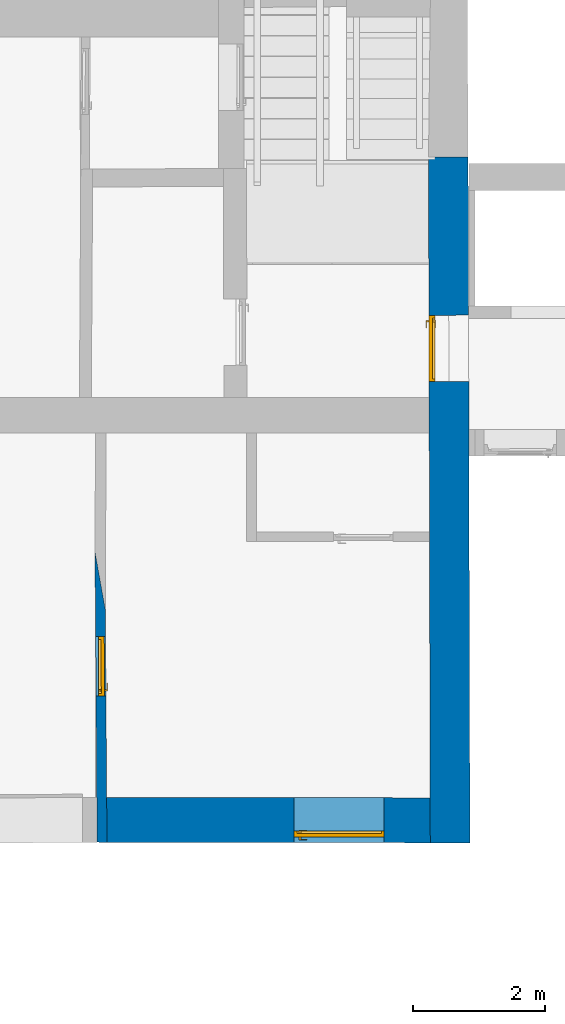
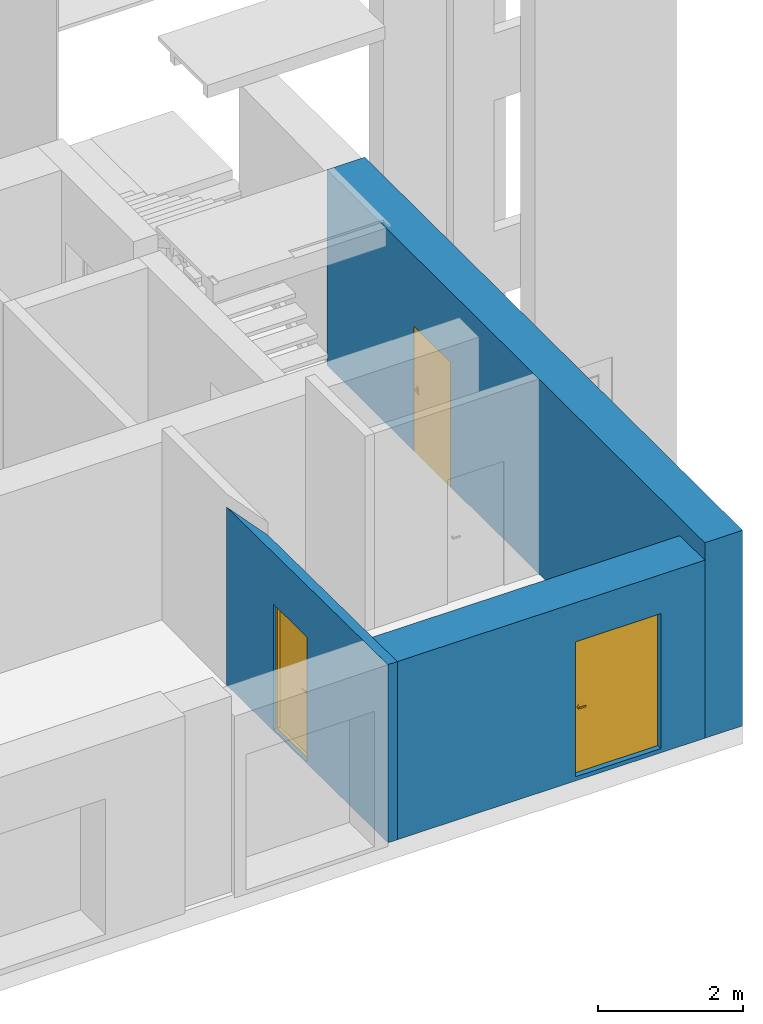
# One storey, part 10 of 17: 3 doors, 3 walls, 3 openings.
"""IFC2X3 building model written with IfcOpenShell, lengths in millimetres."""

from ifc_helpers import new_model, entity, si_unit, converted_unit, derived_unit, direction, frame, frame_2d, origin, place, context, subcontext, project, spatial, rectangle, extrude, faceted_brep, source, transform, mapped, material, material_list, layer, layer_set, type_object, type_shapes, element, fill, save


model = new_model("IFC2X3")

# Units and contexts
model_context = context("Model", 3, precision=0.01, world=origin(), true_north=direction((6.12303176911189e-17, 1.0)))
context_of_model = context(None, 3, precision=0.01, world=origin(), true_north=direction((6.12303176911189e-17, 1.0)))
body_context = subcontext(model_context, "Body", "Model", "MODEL_VIEW")
ifc_project = project(units=[si_unit("LENGTHUNIT", "METRE", prefix="MILLI"), si_unit("AREAUNIT", "SQUARE_METRE"), si_unit("VOLUMEUNIT", "CUBIC_METRE"), converted_unit("PLANEANGLEUNIT", "DEGREE", entity("IfcRatioMeasure", 0.0174532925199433), si_unit("PLANEANGLEUNIT", "RADIAN"), dimensions=[0, 0, 0, 0, 0, 0, 0]), si_unit("MASSUNIT", "GRAM", prefix="KILO"), derived_unit("MASSDENSITYUNIT", [(si_unit("MASSUNIT", "GRAM", prefix="KILO"), 1), (si_unit("LENGTHUNIT", "METRE"), -3)]), si_unit("TIMEUNIT", "SECOND"), si_unit("FREQUENCYUNIT", "HERTZ"), si_unit("THERMODYNAMICTEMPERATUREUNIT", "DEGREE_CELSIUS"), derived_unit("THERMALTRANSMITTANCEUNIT", [(si_unit("MASSUNIT", "GRAM", prefix="KILO"), 1), (si_unit("THERMODYNAMICTEMPERATUREUNIT", "KELVIN"), -1), (si_unit("TIMEUNIT", "SECOND"), -3)]), derived_unit("VOLUMETRICFLOWRATEUNIT", [(si_unit("LENGTHUNIT", "METRE"), 3), (si_unit("TIMEUNIT", "SECOND"), -1)]), si_unit("ELECTRICCURRENTUNIT", "AMPERE"), si_unit("ELECTRICVOLTAGEUNIT", "VOLT"), si_unit("POWERUNIT", "WATT"), si_unit("FORCEUNIT", "NEWTON", prefix="KILO"), si_unit("ILLUMINANCEUNIT", "LUX"), si_unit("LUMINOUSFLUXUNIT", "LUMEN"), si_unit("LUMINOUSINTENSITYUNIT", "CANDELA"), derived_unit("USERDEFINED", [(si_unit("MASSUNIT", "GRAM", prefix="KILO"), -1), (si_unit("LENGTHUNIT", "METRE"), -2), (si_unit("TIMEUNIT", "SECOND"), 3), (si_unit("LUMINOUSFLUXUNIT", "LUMEN"), 1)]), derived_unit("LINEARVELOCITYUNIT", [(si_unit("LENGTHUNIT", "METRE"), 1), (si_unit("TIMEUNIT", "SECOND"), -1)]), si_unit("PRESSUREUNIT", "PASCAL"), derived_unit("USERDEFINED", [(si_unit("LENGTHUNIT", "METRE"), -2), (si_unit("MASSUNIT", "GRAM", prefix="KILO"), 1), (si_unit("TIMEUNIT", "SECOND"), -2)])], contexts=[model_context, context_of_model])

# Site, building, storey
site_placement = place(None, frame((121442.264707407, 135347.995453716, -1800.0)))
site = spatial("IfcSite", under=ifc_project, at=site_placement, Name="Surface", CompositionType="ELEMENT")
building_placement = place(site_placement, origin())
building = spatial("IfcBuilding", under=site, at=building_placement, CompositionType="ELEMENT")
storey_placement = place(building_placement, frame((0.0, 0.0, -1490.0)))
storey = spatial("IfcBuildingStorey", under=building, at=storey_placement, Name="Kelder", CompositionType="ELEMENT", Elevation=-1489.99999999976)

# Wall, opening, door
ifc_material_1 = material(Name="__Betoonelement")
ifc_layer = layer(ifc_material_1, 150.0)
ifc_layer_set = layer_set([ifc_layer], Name="Basic Wall:15_Betoon")
wall_type_1 = type_object("IfcWallType", Name="Basic Wall:15_Betoon", PredefinedType="STANDARD", material=ifc_layer_set)
wall_1_placement = place(storey_placement, frame((-87534.6090014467, -123279.785613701, 0.0), z_axis=(0.0, 0.0, 1.0), x_axis=(0.00713811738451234, -0.999974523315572, 0.0)))
wall_1 = element("IfcWall", 1, at=wall_1_placement, inside=storey, type_object=wall_type_1, Name="Basic Wall:15_Betoon", ObjectType="Basic Wall:15_Betoon", context=body_context, shape_type="Brep", body=[
    faceted_brep([(0.0, -75.0, 0.0), (4395.36416767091, -75.0, 0.0), (4395.36416767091, -75.0, 2997.0), (4023.88147561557, -75.0, 2997.0), (3715.900593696, -75.0, 2997.0), (0.0, -75.0, 2997.0), (1287.72322610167, -75.0, 32.5000000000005), (1287.72322610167, -75.0, 2132.49999999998), (2187.72322610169, -75.0, 2132.49999999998), (2187.72322610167, -75.0, 32.5000000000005), (4396.68048083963, 75.0, 2997.0), (4396.68048083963, 75.0, 0.0), (4056.66738972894, 75.0, 0.0), (4056.66738972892, 75.0, 10.0), (3716.65429861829, 75.0, 10.0), (878.819026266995, 75.0, 10.0), (878.81902626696, 75.0, 2997.0), (3716.65429861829, 75.0, 2997.0), (4024.95222050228, 75.0, 2997.0), (1287.72322610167, 75.0, 2132.49999999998), (1287.72322610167, 75.0, 32.5000000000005), (2187.72322610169, 75.0, 32.5000000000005), (2187.72322610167, 75.0, 2132.49999999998), (439.409513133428, 0.0, 0.0), (804.025789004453, 0.0, 0.0), (4056.00923314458, 0.0, 0.0), (4056.00923314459, 0.0, 10.0), (439.409513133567, 0.0, 10.0)], [[[0, 1, 2, 3, 4, 5], [6, 7, 8, 9]], [[10, 11, 12, 13, 14, 15, 16, 17, 18], [19, 20, 21, 22]], [[1, 0, 23, 24, 25, 12, 11]], [[2, 1, 11, 10]], [[6, 20, 19, 7]], [[7, 19, 22, 8]], [[21, 9, 8, 22]], [[20, 6, 9, 21]], [[26, 27, 15, 14, 13]], [[26, 13, 12, 25]], [[27, 26, 25, 24, 23]], [[2, 10, 18, 3]], [[5, 4, 3, 18, 17, 16]], [[0, 5, 16, 15, 27, 23]]]),
])
opening_1_placement = place(wall_1_placement, frame((1287.72322610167, -75.0, 32.5000000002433)))
opening_1 = element("IfcOpeningElement", 2, at=opening_1_placement, cuts=wall_1, Name="sma_D01:900 x 2100mm Tuletokke:1", ObjectType="Opening", context=body_context, shape_type="SweptSolid", body=[
    extrude(rectangle(XDim=2099.99999999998, YDim=900.0, at=frame_2d((1049.99999999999, 450.000000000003), x_axis=(1.0, 0.0))), frame((0.0, 0.0, 0.0), z_axis=(0.0, 1.0, 0.0), x_axis=(0.0, 0.0, 1.0)), (0.0, 0.0, 1.0), 150.0),
])
ifc_material_2 = material(Name="Metal - Aluminium")
ifc_material_3 = material(Name="Metalli - teras- valge")
ifc_material_list_1 = material_list([ifc_material_2, ifc_material_3])
ifc_material_list_2 = material_list([ifc_material_2, ifc_material_3])
door_style_1 = type_object("IfcDoorStyle", Name="900 x 2100mm Tuletokke", ConstructionType="NOTDEFINED", OperationType="SINGLE_SWING_LEFT", ParameterTakesPrecedence=False, Sizeable=False, material=ifc_material_list_2)
shared_shape_1 = source(origin(), body_context, "Body", "Brep", [
    faceted_brep([(800.0, 40.0, 1112.5), (705.0, 40.0, 1112.5), (705.0, 35.0, 1112.5), (825.0, 35.0, 1112.5), (825.0, 78.0, 1112.5), (800.0, 78.0, 1112.5), (800.0, 40.0, 1087.5), (800.0, 78.0, 1087.5), (825.0, 78.0, 1087.5), (825.0, 35.0, 1087.5), (705.0, 35.0, 1087.5), (705.0, 40.0, 1087.5)], [[[0, 1, 2, 3, 4, 5]], [[6, 7, 8, 9, 10, 11]], [[5, 7, 6, 0]], [[4, 8, 7, 5]], [[3, 9, 8, 4]], [[2, 10, 9, 3]], [[1, 11, 10, 2]], [[0, 6, 11, 1]]]),
    faceted_brep([(787.500000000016, 78.0, 1137.5), (837.500000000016, 78.0, 1137.5), (837.500000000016, 80.0, 1137.5), (787.500000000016, 80.0, 1137.5), (787.500000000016, 78.0, 1017.5), (787.500000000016, 80.0, 1017.5), (837.500000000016, 80.0, 1017.5), (837.500000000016, 78.0, 1017.5)], [[[0, 1, 2, 3]], [[4, 5, 6, 7]], [[3, 5, 4, 0]], [[2, 6, 5, 3]], [[1, 7, 6, 2]], [[0, 4, 7, 1]]]),
    faceted_brep([(800.0, 170.0, 1112.5), (800.0, 132.0, 1112.5), (825.0, 132.0, 1112.5), (825.0, 175.0, 1112.5), (705.0, 175.0, 1112.5), (705.0, 170.0, 1112.5), (800.0, 170.0, 1087.5), (705.0, 170.0, 1087.5), (705.0, 175.0, 1087.5), (825.0, 175.0, 1087.5), (825.0, 132.0, 1087.5), (800.0, 132.0, 1087.5)], [[[0, 1, 2, 3, 4, 5]], [[6, 7, 8, 9, 10, 11]], [[1, 0, 6, 11]], [[2, 1, 11, 10]], [[3, 2, 10, 9]], [[4, 3, 9, 8]], [[5, 4, 8, 7]], [[0, 5, 7, 6]]]),
    faceted_brep([(787.500000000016, 132.0, 1137.5), (787.500000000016, 130.0, 1137.5), (837.500000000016, 130.0, 1137.5), (837.500000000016, 132.0, 1137.5), (787.500000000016, 132.0, 1017.5), (837.500000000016, 132.0, 1017.5), (837.500000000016, 130.0, 1017.5), (787.500000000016, 130.0, 1017.5)], [[[0, 1, 2, 3]], [[4, 5, 6, 7]], [[1, 0, 4, 7]], [[2, 1, 7, 6]], [[3, 2, 6, 5]], [[0, 3, 5, 4]]]),
    faceted_brep([(0.0, 40.0, 0.0), (0.0, 130.0, 0.0), (25.0, 130.0, 0.0), (25.0, 80.0, 0.0), (40.0, 80.0, 0.0), (40.0, 40.0, 0.0), (40.0, 40.0, 2060.0), (860.0, 40.0, 2060.0), (860.0, 40.0, 0.0), (900.0, 40.0, 0.0), (900.0, 40.0, 2100.0), (0.0, 40.0, 2100.0), (40.0, 80.0, 2060.0), (25.0, 80.0, 2075.0), (875.0, 80.0, 2075.0), (875.0, 80.0, 0.0), (860.0, 80.0, 0.0), (860.0, 80.0, 2060.0), (25.0, 130.0, 2075.0), (0.0, 130.0, 2100.0), (900.0, 130.0, 2100.0), (900.0, 130.0, 0.0), (875.0, 130.0, 0.0), (875.0, 130.0, 2075.0)], [[[0, 1, 2, 3, 4, 5]], [[5, 6, 7, 8, 9, 10, 11, 0]], [[4, 12, 6, 5]], [[3, 13, 14, 15, 16, 17, 12, 4]], [[2, 18, 13, 3]], [[1, 19, 20, 21, 22, 23, 18, 2]], [[0, 11, 19, 1]], [[10, 9, 21, 20]], [[9, 8, 16, 15, 22, 21]], [[17, 16, 8, 7]], [[23, 22, 15, 14]], [[12, 17, 7, 6]], [[18, 23, 14, 13]], [[11, 10, 20, 19]]]),
    faceted_brep([(875.0, 80.0, 2075.0), (25.0, 80.0, 2075.0), (25.0, 80.0, 20.0), (875.0, 80.0, 20.0), (875.0, 130.0, 2075.0), (875.0, 130.0, 20.0), (25.0, 130.0, 20.0), (25.0, 130.0, 2075.0)], [[[0, 1, 2, 3]], [[4, 5, 6, 7]], [[3, 5, 4, 0]], [[2, 6, 5, 3]], [[1, 7, 6, 2]], [[0, 4, 7, 1]]]),
    faceted_brep([(40.0, 40.0, 30.0), (40.0, 80.0, 30.0), (40.0, 80.0, 20.0), (40.0, 80.0, 0.0), (40.0, 40.0, 0.0), (860.0, 40.0, 30.0), (860.0, 40.0, 0.0), (860.0, 80.0, 0.0), (860.0, 80.0, 20.0), (860.0, 80.0, 30.0), (25.0, 80.0, 0.0), (25.0, 130.0, 0.0), (875.0, 130.0, 0.0), (875.0, 80.0, 0.0), (25.0, 130.0, 20.0), (25.0, 80.0, 20.0), (875.0, 130.0, 20.0), (875.0, 80.0, 20.0)], [[[0, 1, 2, 3, 4]], [[5, 6, 7, 8, 9]], [[4, 6, 5, 0]], [[3, 10, 11, 12, 13, 7, 6, 4]], [[9, 8, 2, 1]], [[0, 5, 9, 1]], [[14, 11, 10, 15]], [[16, 17, 13, 12]], [[15, 2, 8, 17, 16, 14]], [[10, 3, 2, 15]], [[14, 16, 12, 11]], [[17, 8, 7, 13]]]),
])
type_shapes(door_style_1, [shared_shape_1])
door_1_placement = place(opening_1_placement, origin())
door_1 = element("IfcDoor", 3, at=door_1_placement, inside=storey, type_object=door_style_1, material=ifc_material_list_1, Name="sma_D01:900 x 2100mm Tuletokke", ObjectType="900 x 2100mm Tuletokke", OverallHeight=2099.99999999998, OverallWidth=900.000000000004, context=body_context, shape_type="MappedRepresentation", body=[
    mapped(shared_shape_1, transform((0.0, 0.0, 0.0), scale=1.0)),
])
fill(opening_1, door_1)

wall_type_2 = type_object("IfcWallType", Name="Basic Wall:60_Betoon", PredefinedType="NOTDEFINED")
wall_2_placement = place(storey_placement, frame((-82241.0297368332, -127685.581174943, 0.0), z_axis=(0.0, 0.0, 1.0), x_axis=(-0.00259935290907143, 0.99999662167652, 0.0)))
wall_2 = element("IfcWall", 4, at=wall_2_placement, inside=storey, type_object=wall_type_2, material=ifc_material_1, Name="Basic Wall:60_Betoon", ObjectType="Basic Wall:60_Betoon", context=body_context, shape_type="Brep", body=[
    faceted_brep([(10366.412234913, -300.0, 3290.0), (0.0, -300.0, 3290.0), (0.0, -300.0, 0.0), (6976.41223491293, -300.0, 0.0), (6976.41223491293, -300.0, 2100.0), (7976.41223491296, -300.0, 2100.0), (7976.41223491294, -300.0, 0.0), (10366.412234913, -300.0, 0.0), (10366.412234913, -300.0, 3230.66893549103), (2.54183943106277, 300.0, 3290.0), (10366.4122349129, 300.0, 3290.0), (10366.4122349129, 300.0, 3230.66893549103), (10366.4122349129, 300.0, 0.0), (7976.41223491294, 300.0, 0.0), (7976.41223491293, 300.0, 2100.0), (6976.41223491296, 300.0, 2100.0), (6976.41223491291, 300.0, 0.0), (6467.70826273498, 300.0, 0.0), (6467.70826273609, 300.0, 10.0), (682.547941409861, 300.0, 10.0), (342.544890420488, 300.0, 10.0), (342.544890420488, 300.0, 0.0), (2.54183943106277, 300.0, 0.0), (2.54183943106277, 300.0, 2997.0), (341.273970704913, 0.0, 0.0), (6466.92845422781, 0.0, 0.0), (6466.92845422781, 0.0, 10.0), (341.273970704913, 0.0, 10.0)], [[[0, 1, 2, 3, 4, 5, 6, 7, 8]], [[9, 10, 11, 12, 13, 14, 15, 16, 17, 18, 19, 20, 21, 22, 23]], [[2, 22, 21, 24, 25, 17, 16, 3]], [[7, 12, 11, 10, 0, 8]], [[1, 0, 10, 9]], [[26, 27, 20, 19, 18]], [[26, 18, 17, 25]], [[27, 26, 25, 24]], [[20, 27, 24, 21]], [[2, 1, 9, 23, 22]], [[15, 4, 3, 16]], [[4, 15, 14, 5]], [[5, 14, 13, 6]], [[12, 7, 6, 13]]]),
])
opening_2_placement = place(wall_2_placement, frame((6977.16847220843, -301.299676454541, 0.0)))
opening_2 = element("IfcOpeningElement", 5, at=opening_2_placement, cuts=wall_2, Name="sma_D01:1000 x 2100mm Tuletokke_old:1", ObjectType="Opening", context=body_context, shape_type="SweptSolid", body=[
    extrude(rectangle(XDim=2099.99999999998, YDim=1000.0, at=frame_2d((1049.99999999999, 500.000000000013), x_axis=(1.0, 0.0))), frame((0.0, 0.0, 0.0), z_axis=(-0.00259935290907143, 0.99999662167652, 0.0), x_axis=(0.0, 0.0, 1.0)), (0.0, 0.0, 1.0), 600.0),
])
ifc_material_4 = material(Name="NCS S 2005-Y50R Vaalea beige, matta, ruisku")
ifc_material_list_3 = material_list([ifc_material_2, ifc_material_4])
ifc_material_list_4 = material_list([ifc_material_2, ifc_material_4])
door_style_2 = type_object("IfcDoorStyle", Name="1000 x 2100mm Tuletokke_old", ConstructionType="NOTDEFINED", OperationType="SINGLE_SWING_LEFT", ParameterTakesPrecedence=False, Sizeable=False, material=ifc_material_list_4)
shared_shape_2 = source(origin(), body_context, "Body", "Brep", [
    faceted_brep([(900.0, 490.0, 1112.5), (805.0, 490.0, 1112.5), (805.0, 485.0, 1112.5), (925.0, 485.0, 1112.5), (925.0, 528.0, 1112.5), (900.0, 528.0, 1112.5), (900.0, 490.0, 1087.5), (900.0, 528.0, 1087.5), (925.0, 528.0, 1087.5), (925.0, 485.0, 1087.5), (805.0, 485.0, 1087.5), (805.0, 490.0, 1087.5)], [[[0, 1, 2, 3, 4, 5]], [[6, 7, 8, 9, 10, 11]], [[5, 7, 6, 0]], [[4, 8, 7, 5]], [[3, 9, 8, 4]], [[2, 10, 9, 3]], [[1, 11, 10, 2]], [[0, 6, 11, 1]]]),
    faceted_brep([(887.500000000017, 528.0, 1137.5), (937.500000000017, 528.0, 1137.5), (937.500000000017, 530.0, 1137.5), (887.500000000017, 530.0, 1137.5), (887.500000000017, 528.0, 1017.5), (887.500000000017, 530.0, 1017.5), (937.500000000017, 530.0, 1017.5), (937.500000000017, 528.0, 1017.5)], [[[0, 1, 2, 3]], [[4, 5, 6, 7]], [[3, 5, 4, 0]], [[2, 6, 5, 3]], [[1, 7, 6, 2]], [[0, 4, 7, 1]]]),
    faceted_brep([(900.0, 620.0, 1112.5), (900.0, 582.0, 1112.5), (925.0, 582.0, 1112.5), (925.0, 625.0, 1112.5), (805.0, 625.0, 1112.5), (805.0, 620.0, 1112.5), (900.0, 620.0, 1087.5), (805.0, 620.0, 1087.5), (805.0, 625.0, 1087.5), (925.0, 625.0, 1087.5), (925.0, 582.0, 1087.5), (900.0, 582.0, 1087.5)], [[[0, 1, 2, 3, 4, 5]], [[6, 7, 8, 9, 10, 11]], [[1, 0, 6, 11]], [[2, 1, 11, 10]], [[3, 2, 10, 9]], [[4, 3, 9, 8]], [[5, 4, 8, 7]], [[0, 5, 7, 6]]]),
    faceted_brep([(887.500000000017, 582.0, 1137.5), (887.500000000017, 580.0, 1137.5), (937.500000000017, 580.0, 1137.5), (937.500000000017, 582.0, 1137.5), (887.500000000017, 582.0, 1017.5), (937.500000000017, 582.0, 1017.5), (937.500000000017, 580.0, 1017.5), (887.500000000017, 580.0, 1017.5)], [[[0, 1, 2, 3]], [[4, 5, 6, 7]], [[1, 0, 4, 7]], [[2, 1, 7, 6]], [[3, 2, 6, 5]], [[0, 3, 5, 4]]]),
    faceted_brep([(0.0, 490.0, 0.0), (0.0, 580.0, 0.0), (25.0, 580.0, 0.0), (25.0, 530.0, 0.0), (40.0, 530.0, 0.0), (40.0, 490.0, 0.0), (40.0, 490.0, 2060.0), (960.0, 490.0, 2060.0), (960.0, 490.0, 0.0), (1000.0, 490.0, 0.0), (1000.0, 490.0, 2100.0), (0.0, 490.0, 2100.0), (40.0, 530.0, 2060.0), (25.0, 530.0, 2075.0), (975.0, 530.0, 2075.0), (975.0, 530.0, 0.0), (960.0, 530.0, 0.0), (960.0, 530.0, 2060.0), (25.0, 580.0, 2075.0), (0.0, 580.0, 2100.0), (1000.0, 580.0, 2100.0), (1000.0, 580.0, 0.0), (975.0, 580.0, 0.0), (975.0, 580.0, 2075.0)], [[[0, 1, 2, 3, 4, 5]], [[5, 6, 7, 8, 9, 10, 11, 0]], [[4, 12, 6, 5]], [[3, 13, 14, 15, 16, 17, 12, 4]], [[2, 18, 13, 3]], [[1, 19, 20, 21, 22, 23, 18, 2]], [[0, 11, 19, 1]], [[10, 9, 21, 20]], [[9, 8, 16, 15, 22, 21]], [[17, 16, 8, 7]], [[23, 22, 15, 14]], [[12, 17, 7, 6]], [[18, 23, 14, 13]], [[11, 10, 20, 19]]]),
    faceted_brep([(975.0, 530.0, 2075.0), (25.0, 530.0, 2075.0), (25.0, 530.0, 20.0), (975.0, 530.0, 20.0), (975.0, 580.0, 2075.0), (975.0, 580.0, 20.0), (25.0, 580.0, 20.0), (25.0, 580.0, 2075.0)], [[[0, 1, 2, 3]], [[4, 5, 6, 7]], [[3, 5, 4, 0]], [[2, 6, 5, 3]], [[1, 7, 6, 2]], [[0, 4, 7, 1]]]),
    faceted_brep([(40.0, 490.0, 30.0), (40.0, 530.0, 30.0), (40.0, 530.0, 20.0), (40.0, 530.0, 0.0), (40.0, 490.0, 0.0), (960.0, 490.0, 30.0), (960.0, 490.0, 0.0), (960.0, 530.0, 0.0), (960.0, 530.0, 20.0), (960.0, 530.0, 30.0), (25.0, 530.0, 0.0), (25.0, 580.0, 0.0), (975.0, 580.0, 0.0), (975.0, 530.0, 0.0), (25.0, 580.0, 20.0), (25.0, 530.0, 20.0), (975.0, 580.0, 20.0), (975.0, 530.0, 20.0)], [[[0, 1, 2, 3, 4]], [[5, 6, 7, 8, 9]], [[4, 6, 5, 0]], [[3, 10, 11, 12, 13, 7, 6, 4]], [[9, 8, 2, 1]], [[0, 5, 9, 1]], [[14, 11, 10, 15]], [[16, 17, 13, 12]], [[15, 2, 8, 17, 16, 14]], [[10, 3, 2, 15]], [[14, 16, 12, 11]], [[17, 8, 7, 13]]]),
])
type_shapes(door_style_2, [shared_shape_2])
door_2_placement = place(opening_2_placement, frame((0.0, 19.4348473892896, 0.0)))
door_2 = element("IfcDoor", 6, at=door_2_placement, inside=storey, type_object=door_style_2, material=ifc_material_list_3, Name="sma_D01:1000 x 2100mm Tuletokke_old", ObjectType="1000 x 2100mm Tuletokke_old", OverallHeight=2099.99999999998, OverallWidth=1000.00000000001, context=body_context, shape_type="MappedRepresentation", body=[
    mapped(shared_shape_2, transform((0.0, 0.0, 0.0), scale=1.0)),
])
fill(opening_2, door_2)

wall_type_3 = type_object("IfcWallType", Name="Basic Wall:68_Betoon", PredefinedType="NOTDEFINED")
wall_3_placement = place(storey_placement, frame((-82540.4787446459, -127343.819605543, 0.0), z_axis=(0.0, 0.0, 1.0), x_axis=(-0.999998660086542, 0.00163701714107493, 0.0)))
wall_3 = element("IfcWall", 7, at=wall_3_placement, inside=storey, type_object=wall_type_3, material=ifc_material_1, Name="Basic Wall:68_Betoon", ObjectType="Basic Wall:68_Betoon", context=body_context, shape_type="Brep", body=[
    faceted_brep([(698.519198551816, -340.0, 70.0), (698.519198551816, -340.0, 2340.0), (2058.51919854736, -340.0, 2340.0), (2058.51919854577, -340.0, 70.0), (4893.16539513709, -340.0, 2997.0), (2.88075135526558, -340.0, 2997.0), (2.88075135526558, -340.0, 10.0), (4893.16539513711, -340.0, 10.0), (2945.73374721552, -340.0, 1251.21104898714), (2945.73374721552, -340.0, 2396.21104898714), (4425.73374721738, -340.0, 2396.21104898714), (4425.73374722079, -340.0, 1251.21104898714), (4887.19810877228, 340.0, 0.0), (0.0, 340.0, 0.0), (0.0, 340.0, 2997.0), (4887.19810877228, 340.0, 2997.0), (698.519198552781, 340.0, 2340.0), (698.519198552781, 340.0, 70.0), (2058.51919854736, 340.0, 70.0), (2058.51919855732, 340.0, 2340.0), (4890.18175195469, 0.0, 0.0), (1.44037567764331, 0.0, 0.0), (4890.46005520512, -31.7139481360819, 2997.0), (4890.18175195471, 0.0, 10.0), (2945.73374721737, -88.6327534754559, 2396.21104898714), (2945.73374721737, -88.6327534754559, 1251.21104898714), (4425.73374721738, -88.6327534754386, 1251.21104898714), (4425.73374721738, -88.6327534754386, 2396.21104898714), (1.44037567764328, 0.0, 10.0), (1.60863313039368, -39.7170924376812, 2997.0)], [[[0, 1, 2, 3], [4, 5, 6, 7], [8, 9, 10, 11]], [[12, 13, 14, 15], [16, 17, 18, 19]], [[13, 12, 20, 21]], [[12, 15, 22, 4, 7, 23, 20]], [[0, 17, 16, 1]], [[1, 16, 19, 2]], [[18, 3, 2, 19]], [[17, 0, 3, 18]], [[24, 25, 26, 27]], [[25, 24, 9, 8]], [[26, 25, 8, 11]], [[27, 26, 11, 10]], [[24, 27, 10, 9]], [[28, 23, 7, 6]], [[23, 28, 21, 20]], [[15, 14, 29, 22]], [[14, 13, 21, 28, 6, 5, 29]], [[4, 22, 29, 5]]], outer=[[False, True, False], [True, False], [True], [True], [True], [True], [True], [True], [True], [True], [True], [True], [True], [True], [True], [True], [True], [True]]),
])
opening_3_placement = place(wall_3_placement, frame((697.961676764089, -338.886828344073, 70.0)))
opening_3 = element("IfcOpeningElement", 8, at=opening_3_placement, cuts=wall_3, Name="sma_D01:1360 x 2270mm 2:1", ObjectType="Opening", context=body_context, shape_type="SweptSolid", body=[
    extrude(rectangle(XDim=2269.99999999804, YDim=1360.0, at=frame_2d((1134.99999999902, 680.000000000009), x_axis=(1.0, 0.0))), frame((0.0, 0.0, 0.0), z_axis=(0.00163701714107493, 0.999998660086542, 0.0), x_axis=(0.0, 0.0, 1.0)), (0.0, 0.0, 1.0), 680.0),
])
door_style_3 = type_object("IfcDoorStyle", Name="1360 x 2270mm 2", ConstructionType="NOTDEFINED", OperationType="SINGLE_SWING_LEFT", ParameterTakesPrecedence=False, Sizeable=False, material=ifc_material_2)
shared_shape_3 = source(origin(), body_context, "Body", "Brep", [
    faceted_brep([(1260.0, 505.327009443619, 1112.5), (1165.0, 505.327009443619, 1112.5), (1165.0, 500.327009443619, 1112.5), (1285.0, 500.327009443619, 1112.5), (1285.0, 543.327009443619, 1112.5), (1260.0, 543.327009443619, 1112.5), (1260.0, 505.327009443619, 1087.5), (1260.0, 543.327009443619, 1087.5), (1285.0, 543.327009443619, 1087.5), (1285.0, 500.327009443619, 1087.5), (1165.0, 500.327009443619, 1087.5), (1165.0, 505.327009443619, 1087.5)], [[[0, 1, 2, 3, 4, 5]], [[6, 7, 8, 9, 10, 11]], [[5, 7, 6, 0]], [[4, 8, 7, 5]], [[3, 9, 8, 4]], [[2, 10, 9, 3]], [[1, 11, 10, 2]], [[0, 6, 11, 1]]]),
    faceted_brep([(1247.50000000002, 543.327009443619, 1137.5), (1297.50000000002, 543.327009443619, 1137.5), (1297.50000000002, 545.327009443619, 1137.5), (1247.50000000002, 545.327009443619, 1137.5), (1247.50000000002, 543.327009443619, 1017.5), (1247.50000000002, 545.327009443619, 1017.5), (1297.50000000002, 545.327009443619, 1017.5), (1297.50000000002, 543.327009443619, 1017.5)], [[[0, 1, 2, 3]], [[4, 5, 6, 7]], [[3, 5, 4, 0]], [[2, 6, 5, 3]], [[1, 7, 6, 2]], [[0, 4, 7, 1]]]),
    faceted_brep([(1260.0, 635.327009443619, 1112.5), (1260.0, 597.327009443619, 1112.5), (1285.0, 597.327009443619, 1112.5), (1285.0, 640.327009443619, 1112.5), (1165.0, 640.32700944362, 1112.5), (1165.0, 635.32700944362, 1112.5), (1260.0, 635.327009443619, 1087.5), (1165.0, 635.32700944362, 1087.5), (1165.0, 640.32700944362, 1087.5), (1285.0, 640.327009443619, 1087.5), (1285.0, 597.327009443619, 1087.5), (1260.0, 597.327009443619, 1087.5)], [[[0, 1, 2, 3, 4, 5]], [[6, 7, 8, 9, 10, 11]], [[1, 0, 6, 11]], [[2, 1, 11, 10]], [[3, 2, 10, 9]], [[4, 3, 9, 8]], [[5, 4, 8, 7]], [[0, 5, 7, 6]]]),
    faceted_brep([(1247.50000000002, 597.327009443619, 1137.5), (1247.50000000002, 595.327009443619, 1137.5), (1297.50000000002, 595.327009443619, 1137.5), (1297.50000000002, 597.327009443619, 1137.5), (1247.50000000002, 597.327009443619, 1017.5), (1297.50000000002, 597.327009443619, 1017.5), (1297.50000000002, 595.327009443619, 1017.5), (1247.50000000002, 595.327009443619, 1017.5)], [[[0, 1, 2, 3]], [[4, 5, 6, 7]], [[1, 0, 4, 7]], [[2, 1, 7, 6]], [[3, 2, 6, 5]], [[0, 3, 5, 4]]]),
    faceted_brep([(0.0, 505.327009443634, 0.0), (0.0, 595.327009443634, 0.0), (25.0, 595.327009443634, 0.0), (25.0, 545.327009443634, 0.0), (40.0, 545.327009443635, 0.0), (40.0, 505.327009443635, 0.0), (40.0, 505.327009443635, 2230.0), (1320.0, 505.327009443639, 2230.0), (1320.0, 505.327009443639, 0.0), (1360.0, 505.327009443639, 0.0), (1360.0, 505.327009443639, 2270.0), (0.0, 505.327009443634, 2270.0), (40.0, 545.327009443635, 2230.0), (25.0, 545.327009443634, 2245.0), (1335.0, 545.327009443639, 2245.0), (1335.0, 545.327009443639, 0.0), (1320.0, 545.32700944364, 0.0), (1320.0, 545.32700944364, 2230.0), (25.0, 595.327009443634, 2245.0), (0.0, 595.327009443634, 2270.0), (1360.0, 595.327009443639, 2270.0), (1360.0, 595.327009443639, 0.0), (1335.0, 595.327009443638, 0.0), (1335.0, 595.327009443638, 2245.0)], [[[0, 1, 2, 3, 4, 5]], [[5, 6, 7, 8, 9, 10, 11, 0]], [[4, 12, 6, 5]], [[3, 13, 14, 15, 16, 17, 12, 4]], [[2, 18, 13, 3]], [[1, 19, 20, 21, 22, 23, 18, 2]], [[0, 11, 19, 1]], [[10, 9, 21, 20]], [[9, 8, 16, 15, 22, 21]], [[17, 16, 8, 7]], [[23, 22, 15, 14]], [[12, 17, 7, 6]], [[18, 23, 14, 13]], [[11, 10, 20, 19]]]),
    faceted_brep([(1335.0, 545.327009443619, 2245.0), (25.0, 545.327009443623, 2245.0), (25.0, 545.327009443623, 20.0), (1335.0, 545.327009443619, 20.0), (1335.0, 595.327009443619, 2245.0), (1335.0, 595.327009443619, 20.0), (25.0, 595.327009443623, 20.0), (25.0, 595.327009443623, 2245.0)], [[[0, 1, 2, 3]], [[4, 5, 6, 7]], [[3, 5, 4, 0]], [[2, 6, 5, 3]], [[1, 7, 6, 2]], [[0, 4, 7, 1]]]),
    faceted_brep([(40.0, 505.327009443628, 30.0), (40.0, 545.327009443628, 30.0), (40.0, 545.327009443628, 20.0), (40.0, 545.327009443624, 0.0), (40.0, 505.327009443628, 0.0), (1320.0, 505.327009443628, 30.0), (1320.0, 505.327009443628, 0.0), (1320.0, 545.327009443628, 0.0), (1320.0, 545.327009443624, 20.0), (1320.0, 545.327009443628, 30.0), (25.0, 545.327009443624, 0.0), (25.0, 595.327009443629, 0.0), (1335.0, 595.327009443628, 0.0), (1335.0, 545.327009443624, 0.0), (25.0, 595.327009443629, 20.0), (25.0, 545.327009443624, 20.0), (1335.0, 595.327009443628, 20.0), (1335.0, 545.327009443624, 20.0)], [[[0, 1, 2, 3, 4]], [[5, 6, 7, 8, 9]], [[4, 6, 5, 0]], [[3, 10, 11, 12, 13, 7, 6, 4]], [[9, 8, 2, 1]], [[0, 5, 9, 1]], [[14, 11, 10, 15]], [[16, 17, 13, 12]], [[15, 2, 8, 17, 16, 14]], [[10, 3, 2, 15]], [[14, 16, 12, 11]], [[17, 8, 7, 13]]]),
])
type_shapes(door_style_3, [shared_shape_3])
door_3_placement = place(opening_3_placement, frame((0.0, -2.25620398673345, 0.0)))
door_3 = element("IfcDoor", 9, at=door_3_placement, inside=storey, type_object=door_style_3, material=ifc_material_2, Name="sma_D01:1360 x 2270mm 2", ObjectType="1360 x 2270mm 2", OverallHeight=2269.99999999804, OverallWidth=1360.00000000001, context=body_context, shape_type="MappedRepresentation", body=[
    mapped(shared_shape_3, transform((0.0, 0.0, 0.0), scale=1.0)),
])
fill(opening_3, door_3)

save(model, "model.ifc")
